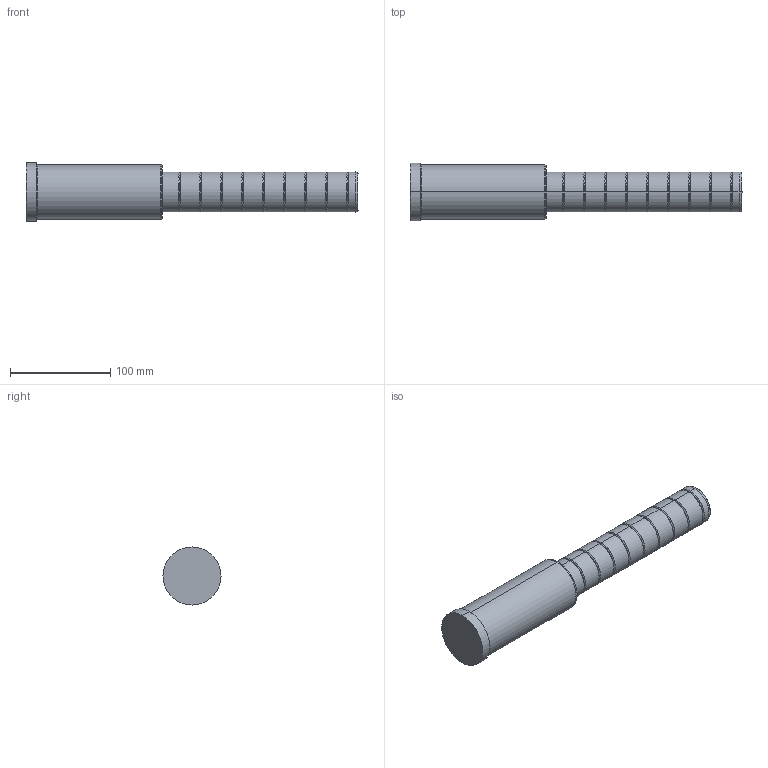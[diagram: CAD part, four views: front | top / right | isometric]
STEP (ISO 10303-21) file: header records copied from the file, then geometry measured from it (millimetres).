
FILE_DESCRIPTION( ( 'STEP AP203' ), '1' );
FILE_NAME( 'C:/Projects/D02 - 40x136x196.step', '2003-01-04T14:04:23', ( ' ' ), ( ' ' ), 'XStep 1.0', ' ', ' ' );
FILE_SCHEMA( ( 'CONFIG_CONTROL_DESIGN' ) );
Length unit declared in the file: metre
Products named in the file (1): 1
Bounding box: 332 x 58 x 58 mm (x, y, z)
Volume: 559582.1 mm3; surface area: 54103 mm2
Topology: 1 solids, 1 shells, 78 faces, 154 edges, 82 vertices
Faces by surface type: bspline 46, revolution 32
Entity records: 2513 total; most frequent: CARTESIAN_POINT 1117, ORIENTED_EDGE 308, DIRECTION 230, EDGE_CURVE 154, AXIS2_PLACEMENT_3D 83, EDGE_LOOP 82, VERTEX_POINT 82, CIRCLE 82
